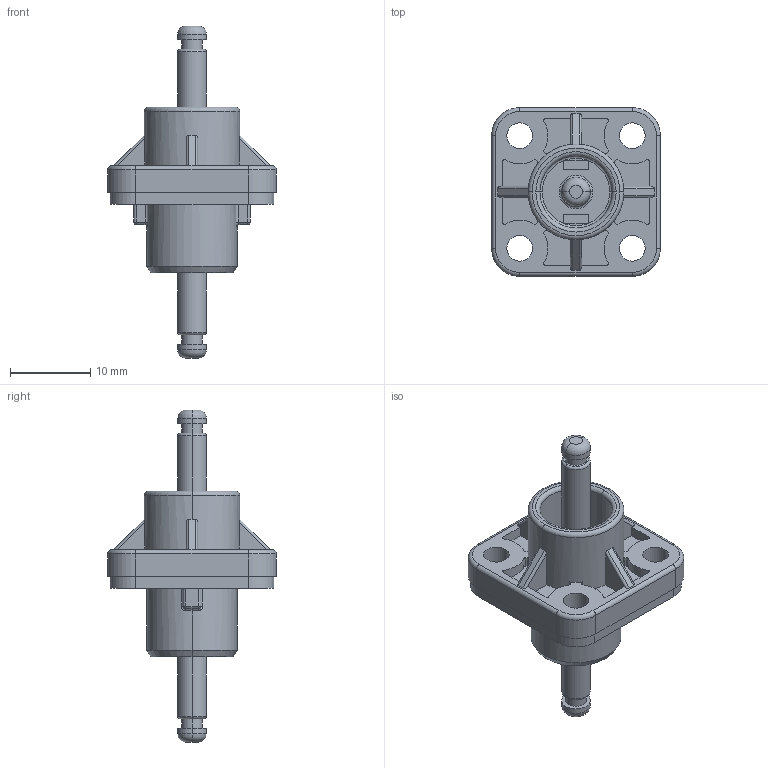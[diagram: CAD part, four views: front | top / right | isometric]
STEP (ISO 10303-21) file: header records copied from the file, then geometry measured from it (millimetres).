
FILE_DESCRIPTION (( 'STEP AP214' ), '1' );
FILE_NAME ('RL9036-30X-F1.STEP', '2017-01-12T01:20:56', ( '' ), ( '' ), 'SwSTEP 2.0', 'SolidWorks 2014', '' );
FILE_SCHEMA (( 'AUTOMOTIVE_DESIGN' ));
Length unit declared in the file: millimetre
Products named in the file (1): RL9036-30X-F1
Bounding box: 21 x 21 x 41.3 mm (x, y, z)
Volume: 2901.6 mm3; surface area: 2881.4 mm2
Topology: 1 solids, 1 shells, 232 faces, 590 edges, 373 vertices
Faces by surface type: cylinder 114, plane 79, torus 29, sphere 4, bspline 4, cone 2
Entity records: 7709 total; most frequent: CARTESIAN_POINT 1398, DIRECTION 1294, ORIENTED_EDGE 1172, EDGE_CURVE 586, AXIS2_PLACEMENT_3D 509, VERTEX_POINT 373, CIRCLE 280, VECTOR 276
